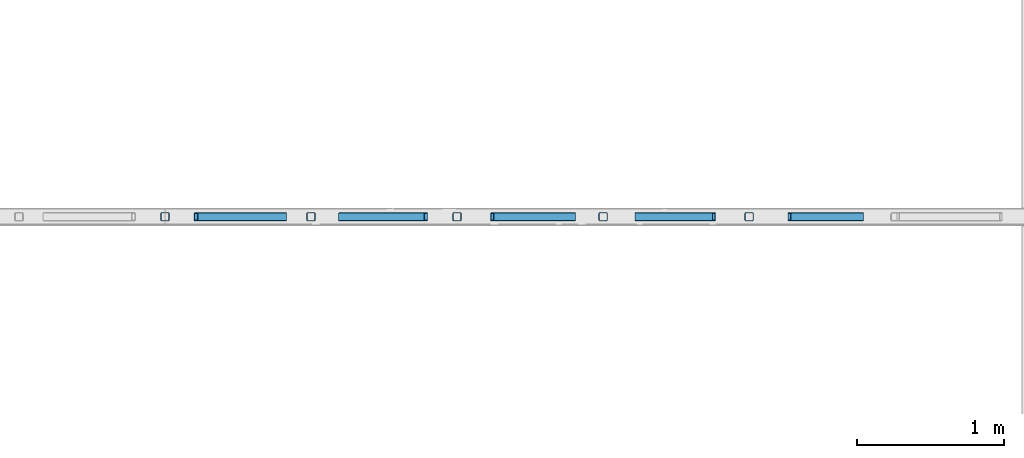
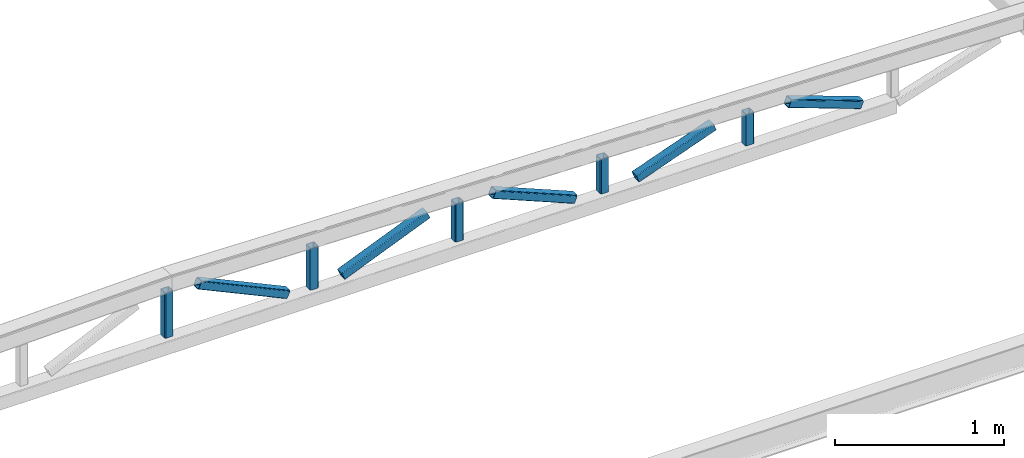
# One storey, part 4 of 10: 10 members, 1 element without a shape of its own.
"""IFC2X3 building model written with IfcOpenShell, lengths in millimetres."""

import ifcopenshell
import ifcopenshell.guid

model = None  # the IFC model being written
_history = None  # IfcOwnerHistory: only IFC2X3 demands one
_inside = {}  # id of a spatial element -> (the spatial element, [elements in it])
_under = {}  # id of a project, library or spatial element -> (it, [spatial elements below it])
_declared = {}  # id of a project -> (the project, [libraries it declares])
_typed = {}  # id of a type object -> (the type object, [elements of that type])
_made_of = {}  # id of a material, layer set ... -> (it, [elements and type objects made of it])


def new_model(schema):
    """Start an empty IFC model of exactly this schema.

    Asked for "IFC4X3", IfcOpenShell would pick the latest addendum, in which some entities
    have other attributes; the version numbers below select the first issue.
    IFC2X3 requires an IfcOwnerHistory on every rooted entity: one is made here for all.
    """
    global model, _history
    if schema == "IFC4X3":
        model = ifcopenshell.file(schema_version=(4, 3, 0, 0))
    else:
        model = ifcopenshell.file(schema=schema)
    _inside.clear()
    _under.clear()
    _declared.clear()
    _typed.clear()
    _made_of.clear()
    _history = None
    if model.schema == "IFC2X3":
        org = make("IfcOrganization", Name="unknown")
        user = make(
            "IfcPersonAndOrganization",
            ThePerson=make("IfcPerson", FamilyName="unknown"),
            TheOrganization=org,
        )
        app = make(
            "IfcApplication",
            ApplicationDeveloper=org,
            Version="unknown",
            ApplicationFullName="unknown",
            ApplicationIdentifier="unknown",
        )
        _history = make(
            "IfcOwnerHistory",
            OwningUser=user,
            OwningApplication=app,
            ChangeAction="ADDED",
            CreationDate=0,
        )
    return model


def make(cls, **values):
    """One entity of the class cls with the attributes given. An attribute that is None is left unset."""
    return model.create_entity(
        cls, **{name: value for name, value in values.items() if value is not None}
    )


def entity(cls, *values):
    """Any entity or typed value of the class cls, its attributes in the order of the schema. None: left unset."""
    e = model.create_entity(cls)
    for i, value in enumerate(values):
        if value is not None:
            e[i] = value
    return e


def rooted(cls, **values):
    """An entity with a GlobalId (a new one), such as an element, a storey or a relation."""
    return make(cls, GlobalId=ifcopenshell.guid.new(), OwnerHistory=_history, **values)


def si_unit(unit_type, name, prefix=None):
    """IfcSIUnit, for example si_unit("LENGTHUNIT", "METRE", prefix="MILLI")."""
    return make("IfcSIUnit", UnitType=unit_type, Prefix=prefix, Name=name)


def converted_unit(unit_type, name, factor, base, dimensions=None, offset=None):
    """IfcConversionBasedUnit, such as the inch: factor (a typed value) times the base unit."""
    return make(
        "IfcConversionBasedUnit"
        if offset is None
        else "IfcConversionBasedUnitWithOffset",
        ConversionOffset=offset,
        Dimensions=None
        if dimensions is None
        else entity("IfcDimensionalExponents", *dimensions),
        UnitType=unit_type,
        Name=name,
        ConversionFactor=make(
            "IfcMeasureWithUnit", ValueComponent=factor, UnitComponent=base
        ),
    )


def derived_unit(unit_type, elements):
    """IfcDerivedUnit: a product of units, each with its exponent."""
    return make(
        "IfcDerivedUnit",
        Elements=[
            make("IfcDerivedUnitElement", Unit=unit, Exponent=power)
            for unit, power in elements
        ],
        UnitType=unit_type,
    )


def assignment(units):
    """IfcUnitAssignment: the units of a project."""
    return None if units is None else make("IfcUnitAssignment", Units=units)


def point(xyz):
    """IfcCartesianPoint."""
    return None if xyz is None else make("IfcCartesianPoint", Coordinates=xyz)


def direction(xyz):
    """IfcDirection."""
    return None if xyz is None else make("IfcDirection", DirectionRatios=xyz)


def frame(location, z_axis=None, x_axis=None):
    """IfcAxis2Placement3D, a coordinate frame: its origin and axes. An axis left out is left unset."""
    return make(
        "IfcAxis2Placement3D",
        Location=point(location),
        Axis=direction(z_axis),
        RefDirection=direction(x_axis),
    )


def frame_2d(location, x_axis=None):
    """IfcAxis2Placement2D, a coordinate frame in the plane: its origin and x axis."""
    return make(
        "IfcAxis2Placement2D", Location=point(location), RefDirection=direction(x_axis)
    )


def origin():
    """The frame at (0, 0, 0) with its axes left unset."""
    return frame((0.0, 0.0, 0.0))


def place(relative_to, where):
    """IfcLocalPlacement: puts the frame where relative to a parent placement (None: the world)."""
    return make(
        "IfcLocalPlacement", PlacementRelTo=relative_to, RelativePlacement=where
    )


def context(
    kind, dimensions, precision=None, world=None, true_north=None, identifier=None
):
    """IfcGeometricRepresentationContext, for example the 3D "Model" context."""
    return make(
        "IfcGeometricRepresentationContext",
        ContextIdentifier=identifier,
        ContextType=kind,
        CoordinateSpaceDimension=dimensions,
        Precision=precision,
        WorldCoordinateSystem=world,
        TrueNorth=true_north,
    )


def subcontext(parent, identifier, kind, view, scale=None):
    """IfcGeometricRepresentationSubContext, for example "Body" below "Model"."""
    return make(
        "IfcGeometricRepresentationSubContext",
        ContextIdentifier=identifier,
        ContextType=kind,
        ParentContext=parent,
        TargetScale=scale,
        TargetView=view,
    )


def project(units=None, contexts=None):
    """IfcProject with its units and contexts."""
    return rooted(
        "IfcProject",
        Name="project",
        RepresentationContexts=contexts,
        UnitsInContext=assignment(units),
    )


def spatial(cls, under=None, at=None, **own):
    """A site, building, storey or space (cls), placed at a placement, below another one or the project."""
    s = rooted(cls, ObjectPlacement=at, **own)
    if under is not None:
        _under.setdefault(under.id(), (under, []))[1].append(s)
    return s


def polyline(points):
    """IfcPolyline through the points."""
    return make("IfcPolyline", Points=[point(p) for p in points])


def circle_curve(where, radius):
    """IfcCircle in the frame where."""
    return make("IfcCircle", Position=where, Radius=radius)


def parameter(value):
    """IfcParameterValue: where a trimmed curve begins or ends, as a parameter of its basis curve."""
    return model.create_entity("IfcParameterValue", value)


def trimmed(basis, trim1, trim2, sense, master):
    """IfcTrimmedCurve: the piece of a basis curve between two trims."""
    return make(
        "IfcTrimmedCurve",
        BasisCurve=basis,
        Trim1=trim1,
        Trim2=trim2,
        SenseAgreement=sense,
        MasterRepresentation=master,
    )


def segment(curve, same_sense, transition):
    """IfcCompositeCurveSegment."""
    return make(
        "IfcCompositeCurveSegment",
        Transition=transition,
        SameSense=same_sense,
        ParentCurve=curve,
    )


def composite_curve(segments, self_intersect=None):
    """IfcCompositeCurve: segments joined end to end."""
    return make("IfcCompositeCurve", Segments=segments, SelfIntersect=self_intersect)


def outline(outer, holes=None, kind="AREA"):
    """IfcArbitraryClosedProfileDef: a profile drawn as a closed curve; with holes, ...WithVoids."""
    if holes is None:
        return make("IfcArbitraryClosedProfileDef", ProfileType=kind, OuterCurve=outer)
    return make(
        "IfcArbitraryProfileDefWithVoids",
        ProfileType=kind,
        OuterCurve=outer,
        InnerCurves=holes,
    )


def extrude(swept, where, along, depth):
    """IfcExtrudedAreaSolid: the profile swept, set in the frame where, extruded along a direction by depth."""
    return make(
        "IfcExtrudedAreaSolid",
        SweptArea=swept,
        Position=where,
        ExtrudedDirection=direction(along),
        Depth=depth,
    )


def shape(context_of_items, identifier, shape_type, items):
    """IfcShapeRepresentation: the items that make up one representation, for example the "Body"."""
    return make(
        "IfcShapeRepresentation",
        ContextOfItems=context_of_items,
        RepresentationIdentifier=identifier,
        RepresentationType=shape_type,
        Items=items,
    )


def source(mapping_origin, context_of_items, identifier, shape_type, items):
    """IfcRepresentationMap: a shape defined once, which mapped items show again and again."""
    return make(
        "IfcRepresentationMap",
        MappingOrigin=mapping_origin,
        MappedRepresentation=shape(context_of_items, identifier, shape_type, items),
    )


def transform(
    local_origin,
    x_axis=None,
    y_axis=None,
    z_axis=None,
    scale=None,
    scale2=None,
    scale3=None,
    uniform=True,
):
    """IfcCartesianTransformationOperator3D, or its non-uniform kind. x_axis, y_axis, z_axis: its Axis1, 2, 3."""
    if uniform:
        return make(
            "IfcCartesianTransformationOperator3D",
            Axis1=direction(x_axis),
            Axis2=direction(y_axis),
            LocalOrigin=point(local_origin),
            Scale=scale,
            Axis3=direction(z_axis),
        )
    return make(
        "IfcCartesianTransformationOperator3DnonUniform",
        Axis1=direction(x_axis),
        Axis2=direction(y_axis),
        LocalOrigin=point(local_origin),
        Scale=scale,
        Axis3=direction(z_axis),
        Scale2=scale2,
        Scale3=scale3,
    )


def mapped(mapping_source, mapping_target):
    """IfcMappedItem: shows the shape of a source again, moved by a transform."""
    return make(
        "IfcMappedItem", MappingSource=mapping_source, MappingTarget=mapping_target
    )


def made_of(thing, what):
    """Note that an element or type object is made of a material, layer set ...; save() writes the relation."""
    if what is not None:
        _made_of.setdefault(what.id(), (what, []))[1].append(thing)
    return thing


def type_object(cls, material=None, **own):
    """A type object (cls), such as IfcWallType, which elements share."""
    return made_of(rooted(cls, **own), material)


def type_shapes(of_type, sources):
    """Give a type object the sources (RepresentationMaps) that its elements show as mapped items."""
    of_type.RepresentationMaps = sources


def element(
    cls,
    number,
    at=None,
    inside=None,
    cuts=None,
    type_object=None,
    material=None,
    context=None,
    identifier="Body",
    shape_type=None,
    held_by="IfcProductDefinitionShape",
    body=None,
    shapes=None,
    **own,
):
    """One element of the class cls, such as IfcWall. Its Tag is "e" and its number.

    at: its placement. inside: the storey or other place that contains it. cuts: it is an
    opening in that element (IfcRelVoidsElement). A single representation is given by context,
    identifier, shape_type and body (its items); several are given by shapes. held_by: the class
    of the entity that holds the representations. save() writes the other relations.
    """
    e = rooted(cls, Tag="e%d" % number, ObjectPlacement=at, **own)
    if body is not None:
        shapes = [shape(context, identifier, shape_type, body)]
    if shapes is not None:
        e.Representation = make(held_by, Representations=shapes)
    if inside is not None:
        _inside.setdefault(inside.id(), (inside, []))[1].append(e)
    if cuts is not None:
        rooted(
            "IfcRelVoidsElement", RelatingBuildingElement=cuts, RelatedOpeningElement=e
        )
    if type_object is not None:
        _typed.setdefault(type_object.id(), (type_object, []))[1].append(e)
    return made_of(e, material)


def aggregate(whole, parts):
    """IfcRelAggregates: a whole, such as a stair, and the parts it consists of."""
    return rooted("IfcRelAggregates", RelatingObject=whole, RelatedObjects=parts)


def save(model, path):
    """Write the relations noted so far, then the file.

    IfcRelAggregates (storeys below a building ...), IfcRelContainedInSpatialStructure (elements
    in a storey), IfcRelDefinesByType, IfcRelAssociatesMaterial and IfcRelDeclares: one each for
    every whole, place, type object, material and project.
    """
    for whole, parts in _under.values():
        aggregate(whole, parts)
    for where, things in _inside.values():
        rooted(
            "IfcRelContainedInSpatialStructure",
            RelatedElements=things,
            RelatingStructure=where,
        )
    for kind, things in _typed.values():
        rooted("IfcRelDefinesByType", RelatedObjects=things, RelatingType=kind)
    for what, things in _made_of.values():
        rooted("IfcRelAssociatesMaterial", RelatedObjects=things, RelatingMaterial=what)
    for by, libraries in _declared.values():
        rooted("IfcRelDeclares", RelatingContext=by, RelatedDefinitions=libraries)
    model.write(path)


model = new_model("IFC2X3")

# Units and contexts
model_context = context("Model", 3, precision=0.01, world=origin(), true_north=direction((6.12303176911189e-17, 1.0)))
body_context = subcontext(model_context, "Body", "Model", "MODEL_VIEW")
ifc_project = project(units=[si_unit("LENGTHUNIT", "METRE", prefix="MILLI"), si_unit("AREAUNIT", "SQUARE_METRE"), si_unit("VOLUMEUNIT", "CUBIC_METRE"), converted_unit("PLANEANGLEUNIT", "DEGREE", entity("IfcRatioMeasure", 0.0174532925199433), si_unit("PLANEANGLEUNIT", "RADIAN"), dimensions=[0, 0, 0, 0, 0, 0, 0]), si_unit("MASSUNIT", "GRAM", prefix="KILO"), derived_unit("MASSDENSITYUNIT", [(si_unit("MASSUNIT", "GRAM", prefix="KILO"), 1), (si_unit("LENGTHUNIT", "METRE"), -3)]), si_unit("TIMEUNIT", "SECOND"), si_unit("FREQUENCYUNIT", "HERTZ"), si_unit("THERMODYNAMICTEMPERATUREUNIT", "DEGREE_CELSIUS"), derived_unit("THERMALTRANSMITTANCEUNIT", [(si_unit("MASSUNIT", "GRAM", prefix="KILO"), 1), (si_unit("THERMODYNAMICTEMPERATUREUNIT", "KELVIN"), -1), (si_unit("TIMEUNIT", "SECOND"), -3)]), derived_unit("VOLUMETRICFLOWRATEUNIT", [(si_unit("LENGTHUNIT", "METRE"), 3), (si_unit("TIMEUNIT", "SECOND"), -1)]), si_unit("ELECTRICCURRENTUNIT", "AMPERE"), si_unit("ELECTRICVOLTAGEUNIT", "VOLT"), si_unit("POWERUNIT", "WATT"), si_unit("FORCEUNIT", "NEWTON", prefix="KILO"), si_unit("ILLUMINANCEUNIT", "LUX"), si_unit("LUMINOUSFLUXUNIT", "LUMEN"), si_unit("LUMINOUSINTENSITYUNIT", "CANDELA"), derived_unit("USERDEFINED", [(si_unit("MASSUNIT", "GRAM", prefix="KILO"), -1), (si_unit("LENGTHUNIT", "METRE"), -2), (si_unit("TIMEUNIT", "SECOND"), 3), (si_unit("LUMINOUSFLUXUNIT", "LUMEN"), 1)]), derived_unit("LINEARVELOCITYUNIT", [(si_unit("LENGTHUNIT", "METRE"), 1), (si_unit("TIMEUNIT", "SECOND"), -1)]), si_unit("PRESSUREUNIT", "PASCAL"), derived_unit("USERDEFINED", [(si_unit("LENGTHUNIT", "METRE"), -2), (si_unit("MASSUNIT", "GRAM", prefix="KILO"), 1), (si_unit("TIMEUNIT", "SECOND"), -2)])], contexts=[model_context])

# Site, building, storey
site_placement = place(None, frame((0.0, 0.0, 101000.0)))
site = spatial("IfcSite", under=ifc_project, at=site_placement, Name="Default", CompositionType="ELEMENT")
building_placement = place(site_placement, origin())
building = spatial("IfcBuilding", under=site, at=building_placement, CompositionType="ELEMENT")
storey_placement = place(building_placement, frame((0.0, 0.0, 6025.0)))
storey = spatial("IfcBuildingStorey", under=building, at=storey_placement, Name="03", CompositionType="ELEMENT", Elevation=6024.9999999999)

# Assembly, members
assembly_placement = place(storey_placement, origin())
assembly = element("IfcElementAssembly", 1, at=assembly_placement, inside=storey, Name="Gitterdrager:Standard", ObjectType="Gitterdrager:Standard", AssemblyPlace="NOTDEFINED", PredefinedType="TRUSS")
member_type_1 = type_object("IfcMemberType", Name="60x60x5", PredefinedType="BRACE")
shared_shape_1 = source(origin(), body_context, "Body", "SweptSolid", [
    extrude(outline(composite_curve([segment(trimmed(circle_curve(frame_2d((-20.0, -20.0), x_axis=(1.0, 0.0)), 10.0), [parameter(180.0)], [parameter(270.0)], True, "PARAMETER"), True, "CONTINUOUS"), segment(polyline([(-20.0, -30.0), (20.0, -30.0)]), True, "CONTINUOUS"), segment(trimmed(circle_curve(frame_2d((20.0, -20.0), x_axis=(1.0, 0.0)), 10.0), [parameter(270.0)], [parameter(5.08888749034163e-14)], True, "PARAMETER"), True, "CONTINUOUS"), segment(polyline([(30.0, -20.0), (30.0, 20.0)]), True, "CONTINUOUS"), segment(trimmed(circle_curve(frame_2d((20.0, 20.0), x_axis=(1.0, 0.0)), 10.0), [parameter(360.0)], [parameter(89.9999999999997)], True, "PARAMETER"), True, "CONTINUOUS"), segment(polyline([(20.0, 30.0), (-20.0, 30.0)]), True, "CONTINUOUS"), segment(trimmed(circle_curve(frame_2d((-20.0, 20.0), x_axis=(1.0, 0.0)), 10.0), [parameter(90.0000000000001)], [parameter(180.0)], True, "PARAMETER"), True, "CONTINUOUS"), segment(polyline([(-30.0, 20.0), (-30.0, -20.0)]), True, "CONTINUOUS")], self_intersect=False), holes=[composite_curve([segment(polyline([(20.0, -25.0), (-20.0, -25.0)]), True, "CONTINUOUS"), segment(trimmed(circle_curve(frame_2d((-20.0, -20.0), x_axis=(1.0, 0.0)), 5.0), [parameter(180.0)], [parameter(270.0)], True, "PARAMETER"), False, "CONTINUOUS"), segment(polyline([(-25.0, -20.0), (-25.0, 20.0)]), True, "CONTINUOUS"), segment(trimmed(circle_curve(frame_2d((-20.0, 20.0), x_axis=(1.0, 0.0)), 5.0), [parameter(90.0000000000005)], [parameter(180.0)], True, "PARAMETER"), False, "CONTINUOUS"), segment(polyline([(-20.0, 25.0), (20.0, 25.0)]), True, "CONTINUOUS"), segment(trimmed(circle_curve(frame_2d((20.0, 20.0), x_axis=(1.0, 0.0)), 5.0), [parameter(0.0)], [parameter(90.0000000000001)], True, "PARAMETER"), False, "CONTINUOUS"), segment(polyline([(25.0, 20.0), (25.0, -20.0)]), True, "CONTINUOUS"), segment(trimmed(circle_curve(frame_2d((20.0, -20.0), x_axis=(1.0, 0.0)), 5.0), [parameter(270.0)], [parameter(4.57999874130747e-13)], True, "PARAMETER"), False, "CONTINUOUS")], self_intersect=False)]), frame((-168.190907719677, 0.0, 0.0), z_axis=(1.0, 0.0, 0.0), x_axis=(0.0, -1.0, 0.0)), (0.0, 0.0, 1.0), 324.846388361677),
])
type_shapes(member_type_1, [shared_shape_1])
member_1_placement = place(assembly_placement, frame((17226.2644969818, 26417.9507529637, -110.132847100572), z_axis=(1.0, 0.0, 0.0), x_axis=(0.0, 0.0, 1.0)))
member_1 = element("IfcMember", 2, at=member_1_placement, type_object=member_type_1, Name="Bjelke HUP:60x60x5", ObjectType="60x60x5", context=body_context, shape_type="MappedRepresentation", body=[
    mapped(shared_shape_1, transform((0.0, 0.0, 0.0), scale=1.0)),
])
member_type_2 = type_object("IfcMemberType", Name="60x60x5", PredefinedType="BRACE")
shared_shape_2 = source(origin(), body_context, "Body", "SweptSolid", [
    extrude(outline(composite_curve([segment(trimmed(circle_curve(frame_2d((-20.0, -20.0), x_axis=(1.0, 0.0)), 10.0), [parameter(180.0)], [parameter(270.0)], True, "PARAMETER"), True, "CONTINUOUS"), segment(polyline([(-20.0, -30.0), (20.0, -30.0)]), True, "CONTINUOUS"), segment(trimmed(circle_curve(frame_2d((20.0, -20.0), x_axis=(1.0, 0.0)), 10.0), [parameter(270.0)], [parameter(5.08888749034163e-14)], True, "PARAMETER"), True, "CONTINUOUS"), segment(polyline([(30.0, -20.0), (30.0, 20.0)]), True, "CONTINUOUS"), segment(trimmed(circle_curve(frame_2d((20.0, 20.0), x_axis=(1.0, 0.0)), 10.0), [parameter(360.0)], [parameter(89.9999999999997)], True, "PARAMETER"), True, "CONTINUOUS"), segment(polyline([(20.0, 30.0), (-20.0, 30.0)]), True, "CONTINUOUS"), segment(trimmed(circle_curve(frame_2d((-20.0, 20.0), x_axis=(1.0, 0.0)), 10.0), [parameter(90.0000000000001)], [parameter(180.0)], True, "PARAMETER"), True, "CONTINUOUS"), segment(polyline([(-30.0, 20.0), (-30.0, -20.0)]), True, "CONTINUOUS")], self_intersect=False), holes=[composite_curve([segment(polyline([(20.0, -25.0), (-20.0, -25.0)]), True, "CONTINUOUS"), segment(trimmed(circle_curve(frame_2d((-20.0, -20.0), x_axis=(1.0, 0.0)), 5.0), [parameter(180.0)], [parameter(270.0)], True, "PARAMETER"), False, "CONTINUOUS"), segment(polyline([(-25.0, -20.0), (-25.0, 20.0)]), True, "CONTINUOUS"), segment(trimmed(circle_curve(frame_2d((-20.0, 20.0), x_axis=(1.0, 0.0)), 5.0), [parameter(90.0000000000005)], [parameter(180.0)], True, "PARAMETER"), False, "CONTINUOUS"), segment(polyline([(-20.0, 25.0), (20.0, 25.0)]), True, "CONTINUOUS"), segment(trimmed(circle_curve(frame_2d((20.0, 20.0), x_axis=(1.0, 0.0)), 5.0), [parameter(0.0)], [parameter(90.0000000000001)], True, "PARAMETER"), False, "CONTINUOUS"), segment(polyline([(25.0, 20.0), (25.0, -20.0)]), True, "CONTINUOUS"), segment(trimmed(circle_curve(frame_2d((20.0, -20.0), x_axis=(1.0, 0.0)), 5.0), [parameter(270.0)], [parameter(4.57999874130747e-13)], True, "PARAMETER"), False, "CONTINUOUS")], self_intersect=False)]), frame((-155.792423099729, 0.0, 0.0), z_axis=(1.0, 0.0, 0.0), x_axis=(0.0, -1.0, 0.0)), (0.0, 0.0, 1.0), 300.049419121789),
])
type_shapes(member_type_2, [shared_shape_2])
member_2_placement = place(assembly_placement, frame((18219.5978303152, 26417.9507529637, -122.531331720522), z_axis=(1.0, 0.0, 0.0), x_axis=(0.0, 0.0, 1.0)))
member_2 = element("IfcMember", 3, at=member_2_placement, type_object=member_type_2, Name="Bjelke HUP:60x60x5", ObjectType="60x60x5", context=body_context, shape_type="MappedRepresentation", body=[
    mapped(shared_shape_2, transform((0.0, 0.0, 0.0), scale=1.0)),
])
member_type_3 = type_object("IfcMemberType", Name="60x60x5", PredefinedType="BRACE")
shared_shape_3 = source(origin(), body_context, "Body", "SweptSolid", [
    extrude(outline(composite_curve([segment(trimmed(circle_curve(frame_2d((-20.0, -20.0), x_axis=(1.0, 0.0)), 10.0), [parameter(180.0)], [parameter(270.0)], True, "PARAMETER"), True, "CONTINUOUS"), segment(polyline([(-20.0, -30.0), (20.0, -30.0)]), True, "CONTINUOUS"), segment(trimmed(circle_curve(frame_2d((20.0, -20.0), x_axis=(1.0, 0.0)), 10.0), [parameter(270.0)], [parameter(5.08888749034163e-14)], True, "PARAMETER"), True, "CONTINUOUS"), segment(polyline([(30.0, -20.0), (30.0, 20.0)]), True, "CONTINUOUS"), segment(trimmed(circle_curve(frame_2d((20.0, 20.0), x_axis=(1.0, 0.0)), 10.0), [parameter(360.0)], [parameter(89.9999999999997)], True, "PARAMETER"), True, "CONTINUOUS"), segment(polyline([(20.0, 30.0), (-20.0, 30.0)]), True, "CONTINUOUS"), segment(trimmed(circle_curve(frame_2d((-20.0, 20.0), x_axis=(1.0, 0.0)), 10.0), [parameter(90.0000000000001)], [parameter(180.0)], True, "PARAMETER"), True, "CONTINUOUS"), segment(polyline([(-30.0, 20.0), (-30.0, -20.0)]), True, "CONTINUOUS")], self_intersect=False), holes=[composite_curve([segment(polyline([(20.0, -25.0), (-20.0, -25.0)]), True, "CONTINUOUS"), segment(trimmed(circle_curve(frame_2d((-20.0, -20.0), x_axis=(1.0, 0.0)), 5.0), [parameter(180.0)], [parameter(270.0)], True, "PARAMETER"), False, "CONTINUOUS"), segment(polyline([(-25.0, -20.0), (-25.0, 20.0)]), True, "CONTINUOUS"), segment(trimmed(circle_curve(frame_2d((-20.0, 20.0), x_axis=(1.0, 0.0)), 5.0), [parameter(90.0000000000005)], [parameter(180.0)], True, "PARAMETER"), False, "CONTINUOUS"), segment(polyline([(-20.0, 25.0), (20.0, 25.0)]), True, "CONTINUOUS"), segment(trimmed(circle_curve(frame_2d((20.0, 20.0), x_axis=(1.0, 0.0)), 5.0), [parameter(0.0)], [parameter(90.0000000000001)], True, "PARAMETER"), False, "CONTINUOUS"), segment(polyline([(25.0, 20.0), (25.0, -20.0)]), True, "CONTINUOUS"), segment(trimmed(circle_curve(frame_2d((20.0, -20.0), x_axis=(1.0, 0.0)), 5.0), [parameter(270.0)], [parameter(4.57999874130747e-13)], True, "PARAMETER"), False, "CONTINUOUS")], self_intersect=False)]), frame((-130.995453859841, 0.0, 0.0), z_axis=(1.0, 0.0, 0.0), x_axis=(0.0, -1.0, 0.0)), (0.0, 0.0, 1.0), 250.455480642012),
])
type_shapes(member_type_3, [shared_shape_3])
member_3_placement = place(assembly_placement, frame((20206.2644969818, 26417.9507529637, -147.328300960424), z_axis=(1.0, 0.0, 0.0), x_axis=(0.0, 0.0, 1.0)))
member_3 = element("IfcMember", 4, at=member_3_placement, type_object=member_type_3, Name="Bjelke HUP:60x60x5", ObjectType="60x60x5", context=body_context, shape_type="MappedRepresentation", body=[
    mapped(shared_shape_3, transform((0.0, 0.0, 0.0), scale=1.0)),
])
member_type_4 = type_object("IfcMemberType", Name="60x60x5", PredefinedType="BRACE")
shared_shape_4 = source(origin(), body_context, "Body", "SweptSolid", [
    extrude(outline(composite_curve([segment(trimmed(circle_curve(frame_2d((-20.0, -20.0), x_axis=(1.0, 0.0)), 10.0), [parameter(180.0)], [parameter(270.0)], True, "PARAMETER"), True, "CONTINUOUS"), segment(polyline([(-20.0, -30.0), (20.0, -30.0)]), True, "CONTINUOUS"), segment(trimmed(circle_curve(frame_2d((20.0, -20.0), x_axis=(1.0, 0.0)), 10.0), [parameter(270.0)], [parameter(5.08888749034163e-14)], True, "PARAMETER"), True, "CONTINUOUS"), segment(polyline([(30.0, -20.0), (30.0, 20.0)]), True, "CONTINUOUS"), segment(trimmed(circle_curve(frame_2d((20.0, 20.0), x_axis=(1.0, 0.0)), 10.0), [parameter(360.0)], [parameter(89.9999999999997)], True, "PARAMETER"), True, "CONTINUOUS"), segment(polyline([(20.0, 30.0), (-20.0, 30.0)]), True, "CONTINUOUS"), segment(trimmed(circle_curve(frame_2d((-20.0, 20.0), x_axis=(1.0, 0.0)), 10.0), [parameter(90.0000000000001)], [parameter(180.0)], True, "PARAMETER"), True, "CONTINUOUS"), segment(polyline([(-30.0, 20.0), (-30.0, -20.0)]), True, "CONTINUOUS")], self_intersect=False), holes=[composite_curve([segment(polyline([(20.0, -25.0), (-20.0, -25.0)]), True, "CONTINUOUS"), segment(trimmed(circle_curve(frame_2d((-20.0, -20.0), x_axis=(1.0, 0.0)), 5.0), [parameter(180.0)], [parameter(270.0)], True, "PARAMETER"), False, "CONTINUOUS"), segment(polyline([(-25.0, -20.0), (-25.0, 20.0)]), True, "CONTINUOUS"), segment(trimmed(circle_curve(frame_2d((-20.0, 20.0), x_axis=(1.0, 0.0)), 5.0), [parameter(90.0000000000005)], [parameter(180.0)], True, "PARAMETER"), False, "CONTINUOUS"), segment(polyline([(-20.0, 25.0), (20.0, 25.0)]), True, "CONTINUOUS"), segment(trimmed(circle_curve(frame_2d((20.0, 20.0), x_axis=(1.0, 0.0)), 5.0), [parameter(0.0)], [parameter(90.0000000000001)], True, "PARAMETER"), False, "CONTINUOUS"), segment(polyline([(25.0, 20.0), (25.0, -20.0)]), True, "CONTINUOUS"), segment(trimmed(circle_curve(frame_2d((20.0, -20.0), x_axis=(1.0, 0.0)), 5.0), [parameter(270.0)], [parameter(4.57999874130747e-13)], True, "PARAMETER"), False, "CONTINUOUS")], self_intersect=False)]), frame((-118.596969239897, 0.0, 0.0), z_axis=(1.0, 0.0, 0.0), x_axis=(0.0, -1.0, 0.0)), (0.0, 0.0, 1.0), 225.658511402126),
])
type_shapes(member_type_4, [shared_shape_4])
member_4_placement = place(assembly_placement, frame((21199.5978303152, 26417.9507529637, -159.726785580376), z_axis=(1.0, 0.0, 0.0), x_axis=(0.0, 0.0, 1.0)))
member_4 = element("IfcMember", 5, at=member_4_placement, type_object=member_type_4, Name="Bjelke HUP:60x60x5", ObjectType="60x60x5", context=body_context, shape_type="MappedRepresentation", body=[
    mapped(shared_shape_4, transform((0.0, 0.0, 0.0), scale=1.0)),
])
member_type_5 = type_object("IfcMemberType", Name="60x60x5", PredefinedType="BRACE")
shared_shape_5 = source(origin(), body_context, "Body", "SweptSolid", [
    extrude(outline(composite_curve([segment(trimmed(circle_curve(frame_2d((-20.0, -20.0), x_axis=(1.0, 0.0)), 10.0), [parameter(180.0)], [parameter(270.0)], True, "PARAMETER"), True, "CONTINUOUS"), segment(polyline([(-20.0, -30.0), (20.0, -30.0)]), True, "CONTINUOUS"), segment(trimmed(circle_curve(frame_2d((20.0, -20.0), x_axis=(1.0, 0.0)), 10.0), [parameter(270.0)], [parameter(5.08888749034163e-14)], True, "PARAMETER"), True, "CONTINUOUS"), segment(polyline([(30.0, -20.0), (30.0, 20.0)]), True, "CONTINUOUS"), segment(trimmed(circle_curve(frame_2d((20.0, 20.0), x_axis=(1.0, 0.0)), 10.0), [parameter(360.0)], [parameter(89.9999999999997)], True, "PARAMETER"), True, "CONTINUOUS"), segment(polyline([(20.0, 30.0), (-20.0, 30.0)]), True, "CONTINUOUS"), segment(trimmed(circle_curve(frame_2d((-20.0, 20.0), x_axis=(1.0, 0.0)), 10.0), [parameter(90.0000000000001)], [parameter(180.0)], True, "PARAMETER"), True, "CONTINUOUS"), segment(polyline([(-30.0, 20.0), (-30.0, -20.0)]), True, "CONTINUOUS")], self_intersect=False), holes=[composite_curve([segment(polyline([(20.0, -25.0), (-20.0, -25.0)]), True, "CONTINUOUS"), segment(trimmed(circle_curve(frame_2d((-20.0, -20.0), x_axis=(1.0, 0.0)), 5.0), [parameter(180.0)], [parameter(270.0)], True, "PARAMETER"), False, "CONTINUOUS"), segment(polyline([(-25.0, -20.0), (-25.0, 20.0)]), True, "CONTINUOUS"), segment(trimmed(circle_curve(frame_2d((-20.0, 20.0), x_axis=(1.0, 0.0)), 5.0), [parameter(90.0000000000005)], [parameter(180.0)], True, "PARAMETER"), False, "CONTINUOUS"), segment(polyline([(-20.0, 25.0), (20.0, 25.0)]), True, "CONTINUOUS"), segment(trimmed(circle_curve(frame_2d((20.0, 20.0), x_axis=(1.0, 0.0)), 5.0), [parameter(0.0)], [parameter(90.0000000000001)], True, "PARAMETER"), False, "CONTINUOUS"), segment(polyline([(25.0, 20.0), (25.0, -20.0)]), True, "CONTINUOUS"), segment(trimmed(circle_curve(frame_2d((20.0, -20.0), x_axis=(1.0, 0.0)), 5.0), [parameter(270.0)], [parameter(4.57999874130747e-13)], True, "PARAMETER"), False, "CONTINUOUS")], self_intersect=False)]), frame((-143.393938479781, 0.0, 0.0), z_axis=(1.0, 0.0, 0.0), x_axis=(0.0, -1.0, 0.0)), (0.0, 0.0, 1.0), 275.252449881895),
])
type_shapes(member_type_5, [shared_shape_5])
member_5_placement = place(assembly_placement, frame((19212.9311636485, 26417.9507529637, -134.929816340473), z_axis=(1.0, 0.0, 0.0), x_axis=(0.0, 0.0, 1.0)))
member_5 = element("IfcMember", 6, at=member_5_placement, type_object=member_type_5, Name="Bjelke HUP:60x60x5", ObjectType="60x60x5", context=body_context, shape_type="MappedRepresentation", body=[
    mapped(shared_shape_5, transform((0.0, 0.0, 0.0), scale=1.0)),
])
member_type_6 = type_object("IfcMemberType", Name="60x60x5", PredefinedType="BRACE")
shared_shape_6 = source(origin(), body_context, "Body", "SweptSolid", [
    extrude(outline(composite_curve([segment(trimmed(circle_curve(frame_2d((-20.0, -20.0), x_axis=(1.0, 0.0)), 10.0), [parameter(180.0)], [parameter(270.0)], True, "PARAMETER"), True, "CONTINUOUS"), segment(polyline([(-20.0, -30.0), (20.0, -30.0)]), True, "CONTINUOUS"), segment(trimmed(circle_curve(frame_2d((20.0, -20.0), x_axis=(1.0, 0.0)), 10.0), [parameter(270.0)], [parameter(5.08888749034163e-14)], True, "PARAMETER"), True, "CONTINUOUS"), segment(polyline([(30.0, -20.0), (30.0, 20.0)]), True, "CONTINUOUS"), segment(trimmed(circle_curve(frame_2d((20.0, 20.0), x_axis=(1.0, 0.0)), 10.0), [parameter(360.0)], [parameter(89.9999999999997)], True, "PARAMETER"), True, "CONTINUOUS"), segment(polyline([(20.0, 30.0), (-20.0, 30.0)]), True, "CONTINUOUS"), segment(trimmed(circle_curve(frame_2d((-20.0, 20.0), x_axis=(1.0, 0.0)), 10.0), [parameter(90.0000000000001)], [parameter(180.0)], True, "PARAMETER"), True, "CONTINUOUS"), segment(polyline([(-30.0, 20.0), (-30.0, -20.0)]), True, "CONTINUOUS")], self_intersect=False), holes=[composite_curve([segment(polyline([(20.0, -25.0), (-20.0, -25.0)]), True, "CONTINUOUS"), segment(trimmed(circle_curve(frame_2d((-20.0, -20.0), x_axis=(1.0, 0.0)), 5.0), [parameter(180.0)], [parameter(270.0)], True, "PARAMETER"), False, "CONTINUOUS"), segment(polyline([(-25.0, -20.0), (-25.0, 20.0)]), True, "CONTINUOUS"), segment(trimmed(circle_curve(frame_2d((-20.0, 20.0), x_axis=(1.0, 0.0)), 5.0), [parameter(90.0000000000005)], [parameter(180.0)], True, "PARAMETER"), False, "CONTINUOUS"), segment(polyline([(-20.0, 25.0), (20.0, 25.0)]), True, "CONTINUOUS"), segment(trimmed(circle_curve(frame_2d((20.0, 20.0), x_axis=(1.0, 0.0)), 5.0), [parameter(0.0)], [parameter(90.0000000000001)], True, "PARAMETER"), False, "CONTINUOUS"), segment(polyline([(25.0, 20.0), (25.0, -20.0)]), True, "CONTINUOUS"), segment(trimmed(circle_curve(frame_2d((20.0, -20.0), x_axis=(1.0, 0.0)), 5.0), [parameter(270.0)], [parameter(4.57999874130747e-13)], True, "PARAMETER"), False, "CONTINUOUS")], self_intersect=False)]), frame((-314.375226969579, 0.0, 0.0), z_axis=(1.0, 0.0, 0.0), x_axis=(0.0, -1.0, 0.0)), (0.0, 0.0, 1.0), 666.812434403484),
])
type_shapes(member_type_6, [shared_shape_6])
member_6_placement = place(assembly_placement, frame((17721.906344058, 26417.9507529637, -110.158430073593), z_axis=(-0.420802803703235, 0.0, -0.907152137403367), x_axis=(0.907152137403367, 0.0, -0.420802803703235)))
member_6 = element("IfcMember", 7, at=member_6_placement, type_object=member_type_6, Name="Bjelke HUP:60x60x5", ObjectType="60x60x5", context=body_context, shape_type="MappedRepresentation", body=[
    mapped(shared_shape_6, transform((0.0, 0.0, 0.0), scale=1.0)),
])
member_type_7 = type_object("IfcMemberType", Name="60x60x5", PredefinedType="BRACE")
shared_shape_7 = source(origin(), body_context, "Body", "SweptSolid", [
    extrude(outline(composite_curve([segment(trimmed(circle_curve(frame_2d((-20.0, -20.0), x_axis=(1.0, 0.0)), 10.0), [parameter(180.0)], [parameter(270.0)], True, "PARAMETER"), True, "CONTINUOUS"), segment(polyline([(-20.0, -30.0), (20.0, -30.0)]), True, "CONTINUOUS"), segment(trimmed(circle_curve(frame_2d((20.0, -20.0), x_axis=(1.0, 0.0)), 10.0), [parameter(270.0)], [parameter(5.08888749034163e-14)], True, "PARAMETER"), True, "CONTINUOUS"), segment(polyline([(30.0, -20.0), (30.0, 20.0)]), True, "CONTINUOUS"), segment(trimmed(circle_curve(frame_2d((20.0, 20.0), x_axis=(1.0, 0.0)), 10.0), [parameter(360.0)], [parameter(89.9999999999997)], True, "PARAMETER"), True, "CONTINUOUS"), segment(polyline([(20.0, 30.0), (-20.0, 30.0)]), True, "CONTINUOUS"), segment(trimmed(circle_curve(frame_2d((-20.0, 20.0), x_axis=(1.0, 0.0)), 10.0), [parameter(90.0000000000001)], [parameter(180.0)], True, "PARAMETER"), True, "CONTINUOUS"), segment(polyline([(-30.0, 20.0), (-30.0, -20.0)]), True, "CONTINUOUS")], self_intersect=False), holes=[composite_curve([segment(polyline([(20.0, -25.0), (-20.0, -25.0)]), True, "CONTINUOUS"), segment(trimmed(circle_curve(frame_2d((-20.0, -20.0), x_axis=(1.0, 0.0)), 5.0), [parameter(180.0)], [parameter(270.0)], True, "PARAMETER"), False, "CONTINUOUS"), segment(polyline([(-25.0, -20.0), (-25.0, 20.0)]), True, "CONTINUOUS"), segment(trimmed(circle_curve(frame_2d((-20.0, 20.0), x_axis=(1.0, 0.0)), 5.0), [parameter(90.0000000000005)], [parameter(180.0)], True, "PARAMETER"), False, "CONTINUOUS"), segment(polyline([(-20.0, 25.0), (20.0, 25.0)]), True, "CONTINUOUS"), segment(trimmed(circle_curve(frame_2d((20.0, 20.0), x_axis=(1.0, 0.0)), 5.0), [parameter(0.0)], [parameter(90.0000000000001)], True, "PARAMETER"), False, "CONTINUOUS"), segment(polyline([(25.0, 20.0), (25.0, -20.0)]), True, "CONTINUOUS"), segment(trimmed(circle_curve(frame_2d((20.0, -20.0), x_axis=(1.0, 0.0)), 5.0), [parameter(270.0)], [parameter(4.57999874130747e-13)], True, "PARAMETER"), False, "CONTINUOUS")], self_intersect=False)]), frame((-322.274622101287, 0.0, 0.0), z_axis=(1.0, 0.0, 0.0), x_axis=(0.0, -1.0, 0.0)), (0.0, 0.0, 1.0), 630.214484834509),
])
type_shapes(member_type_7, [shared_shape_7])
member_7_placement = place(assembly_placement, frame((18716.2644969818, 26417.9507529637, -134.929816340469), z_axis=(0.383267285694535, 0.0, -0.923637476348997), x_axis=(0.923637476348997, 0.0, 0.383267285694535)))
member_7 = element("IfcMember", 8, at=member_7_placement, type_object=member_type_7, Name="Bjelke HUP:60x60x5", ObjectType="60x60x5", context=body_context, shape_type="MappedRepresentation", body=[
    mapped(shared_shape_7, transform((0.0, 0.0, 0.0), scale=1.0)),
])
member_type_8 = type_object("IfcMemberType", Name="60x60x5", PredefinedType="BRACE")
shared_shape_8 = source(origin(), body_context, "Body", "SweptSolid", [
    extrude(outline(composite_curve([segment(trimmed(circle_curve(frame_2d((-20.0, -20.0), x_axis=(1.0, 0.0)), 10.0), [parameter(180.0)], [parameter(270.0)], True, "PARAMETER"), True, "CONTINUOUS"), segment(polyline([(-20.0, -30.0), (20.0, -30.0)]), True, "CONTINUOUS"), segment(trimmed(circle_curve(frame_2d((20.0, -20.0), x_axis=(1.0, 0.0)), 10.0), [parameter(270.0)], [parameter(5.08888749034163e-14)], True, "PARAMETER"), True, "CONTINUOUS"), segment(polyline([(30.0, -20.0), (30.0, 20.0)]), True, "CONTINUOUS"), segment(trimmed(circle_curve(frame_2d((20.0, 20.0), x_axis=(1.0, 0.0)), 10.0), [parameter(360.0)], [parameter(89.9999999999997)], True, "PARAMETER"), True, "CONTINUOUS"), segment(polyline([(20.0, 30.0), (-20.0, 30.0)]), True, "CONTINUOUS"), segment(trimmed(circle_curve(frame_2d((-20.0, 20.0), x_axis=(1.0, 0.0)), 10.0), [parameter(90.0000000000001)], [parameter(180.0)], True, "PARAMETER"), True, "CONTINUOUS"), segment(polyline([(-30.0, 20.0), (-30.0, -20.0)]), True, "CONTINUOUS")], self_intersect=False), holes=[composite_curve([segment(polyline([(20.0, -25.0), (-20.0, -25.0)]), True, "CONTINUOUS"), segment(trimmed(circle_curve(frame_2d((-20.0, -20.0), x_axis=(1.0, 0.0)), 5.0), [parameter(180.0)], [parameter(270.0)], True, "PARAMETER"), False, "CONTINUOUS"), segment(polyline([(-25.0, -20.0), (-25.0, 20.0)]), True, "CONTINUOUS"), segment(trimmed(circle_curve(frame_2d((-20.0, 20.0), x_axis=(1.0, 0.0)), 5.0), [parameter(90.0000000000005)], [parameter(180.0)], True, "PARAMETER"), False, "CONTINUOUS"), segment(polyline([(-20.0, 25.0), (20.0, 25.0)]), True, "CONTINUOUS"), segment(trimmed(circle_curve(frame_2d((20.0, 20.0), x_axis=(1.0, 0.0)), 5.0), [parameter(0.0)], [parameter(90.0000000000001)], True, "PARAMETER"), False, "CONTINUOUS"), segment(polyline([(25.0, 20.0), (25.0, -20.0)]), True, "CONTINUOUS"), segment(trimmed(circle_curve(frame_2d((20.0, -20.0), x_axis=(1.0, 0.0)), 5.0), [parameter(270.0)], [parameter(4.57999874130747e-13)], True, "PARAMETER"), False, "CONTINUOUS")], self_intersect=False)]), frame((-278.55434519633, 0.0, 0.0), z_axis=(1.0, 0.0, 0.0), x_axis=(0.0, -1.0, 0.0)), (0.0, 0.0, 1.0), 600.828967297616),
])
type_shapes(member_type_8, [shared_shape_8])
member_8_placement = place(assembly_placement, frame((19709.5978303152, 26417.9507529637, -134.929816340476), z_axis=(-0.383267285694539, 0.0, -0.923637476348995), x_axis=(0.923637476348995, 0.0, -0.383267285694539)))
member_8 = element("IfcMember", 9, at=member_8_placement, type_object=member_type_8, Name="Bjelke HUP:60x60x5", ObjectType="60x60x5", context=body_context, shape_type="MappedRepresentation", body=[
    mapped(shared_shape_8, transform((0.0, 0.0, 0.0), scale=1.0)),
])
member_type_9 = type_object("IfcMemberType", Name="60x60x5", PredefinedType="BRACE")
shared_shape_9 = source(origin(), body_context, "Body", "SweptSolid", [
    extrude(outline(composite_curve([segment(trimmed(circle_curve(frame_2d((-20.0, -20.0), x_axis=(1.0, 0.0)), 10.0), [parameter(180.0)], [parameter(270.0)], True, "PARAMETER"), True, "CONTINUOUS"), segment(polyline([(-20.0, -30.0), (20.0, -30.0)]), True, "CONTINUOUS"), segment(trimmed(circle_curve(frame_2d((20.0, -20.0), x_axis=(1.0, 0.0)), 10.0), [parameter(270.0)], [parameter(5.08888749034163e-14)], True, "PARAMETER"), True, "CONTINUOUS"), segment(polyline([(30.0, -20.0), (30.0, 20.0)]), True, "CONTINUOUS"), segment(trimmed(circle_curve(frame_2d((20.0, 20.0), x_axis=(1.0, 0.0)), 10.0), [parameter(360.0)], [parameter(89.9999999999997)], True, "PARAMETER"), True, "CONTINUOUS"), segment(polyline([(20.0, 30.0), (-20.0, 30.0)]), True, "CONTINUOUS"), segment(trimmed(circle_curve(frame_2d((-20.0, 20.0), x_axis=(1.0, 0.0)), 10.0), [parameter(90.0000000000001)], [parameter(180.0)], True, "PARAMETER"), True, "CONTINUOUS"), segment(polyline([(-30.0, 20.0), (-30.0, -20.0)]), True, "CONTINUOUS")], self_intersect=False), holes=[composite_curve([segment(polyline([(20.0, -25.0), (-20.0, -25.0)]), True, "CONTINUOUS"), segment(trimmed(circle_curve(frame_2d((-20.0, -20.0), x_axis=(1.0, 0.0)), 5.0), [parameter(180.0)], [parameter(270.0)], True, "PARAMETER"), False, "CONTINUOUS"), segment(polyline([(-25.0, -20.0), (-25.0, 20.0)]), True, "CONTINUOUS"), segment(trimmed(circle_curve(frame_2d((-20.0, 20.0), x_axis=(1.0, 0.0)), 5.0), [parameter(90.0000000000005)], [parameter(180.0)], True, "PARAMETER"), False, "CONTINUOUS"), segment(polyline([(-20.0, 25.0), (20.0, 25.0)]), True, "CONTINUOUS"), segment(trimmed(circle_curve(frame_2d((20.0, 20.0), x_axis=(1.0, 0.0)), 5.0), [parameter(0.0)], [parameter(90.0000000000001)], True, "PARAMETER"), False, "CONTINUOUS"), segment(polyline([(25.0, 20.0), (25.0, -20.0)]), True, "CONTINUOUS"), segment(trimmed(circle_curve(frame_2d((20.0, -20.0), x_axis=(1.0, 0.0)), 5.0), [parameter(270.0)], [parameter(4.57999874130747e-13)], True, "PARAMETER"), False, "CONTINUOUS")], self_intersect=False)]), frame((-288.019442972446, 0.0, 0.0), z_axis=(1.0, 0.0, 0.0), x_axis=(0.0, -1.0, 0.0)), (0.0, 0.0, 1.0), 561.890828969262),
])
type_shapes(member_type_9, [shared_shape_9])
member_9_placement = place(assembly_placement, frame((20702.9311636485, 26417.9507529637, -159.726785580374), z_axis=(0.342896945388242, 0.0, -0.939373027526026), x_axis=(0.939373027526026, 0.0, 0.342896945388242)))
member_9 = element("IfcMember", 10, at=member_9_placement, type_object=member_type_9, Name="Bjelke HUP:60x60x5", ObjectType="60x60x5", context=body_context, shape_type="MappedRepresentation", body=[
    mapped(shared_shape_9, transform((0.0, 0.0, 0.0), scale=1.0)),
])
member_type_10 = type_object("IfcMemberType", Name="60x60x5", PredefinedType="BRACE")
shared_shape_10 = source(origin(), body_context, "Body", "SweptSolid", [
    extrude(outline(composite_curve([segment(trimmed(circle_curve(frame_2d((-20.0, -20.0), x_axis=(1.0, 0.0)), 10.0), [parameter(180.0)], [parameter(270.0)], True, "PARAMETER"), True, "CONTINUOUS"), segment(polyline([(-20.0, -30.0), (20.0, -30.0)]), True, "CONTINUOUS"), segment(trimmed(circle_curve(frame_2d((20.0, -20.0), x_axis=(1.0, 0.0)), 10.0), [parameter(270.0)], [parameter(5.08888749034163e-14)], True, "PARAMETER"), True, "CONTINUOUS"), segment(polyline([(30.0, -20.0), (30.0, 20.0)]), True, "CONTINUOUS"), segment(trimmed(circle_curve(frame_2d((20.0, 20.0), x_axis=(1.0, 0.0)), 10.0), [parameter(360.0)], [parameter(89.9999999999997)], True, "PARAMETER"), True, "CONTINUOUS"), segment(polyline([(20.0, 30.0), (-20.0, 30.0)]), True, "CONTINUOUS"), segment(trimmed(circle_curve(frame_2d((-20.0, 20.0), x_axis=(1.0, 0.0)), 10.0), [parameter(90.0000000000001)], [parameter(180.0)], True, "PARAMETER"), True, "CONTINUOUS"), segment(polyline([(-30.0, 20.0), (-30.0, -20.0)]), True, "CONTINUOUS")], self_intersect=False), holes=[composite_curve([segment(polyline([(20.0, -25.0), (-20.0, -25.0)]), True, "CONTINUOUS"), segment(trimmed(circle_curve(frame_2d((-20.0, -20.0), x_axis=(1.0, 0.0)), 5.0), [parameter(180.0)], [parameter(270.0)], True, "PARAMETER"), False, "CONTINUOUS"), segment(polyline([(-25.0, -20.0), (-25.0, 20.0)]), True, "CONTINUOUS"), segment(trimmed(circle_curve(frame_2d((-20.0, 20.0), x_axis=(1.0, 0.0)), 5.0), [parameter(90.0000000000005)], [parameter(180.0)], True, "PARAMETER"), False, "CONTINUOUS"), segment(polyline([(-20.0, 25.0), (20.0, 25.0)]), True, "CONTINUOUS"), segment(trimmed(circle_curve(frame_2d((20.0, 20.0), x_axis=(1.0, 0.0)), 5.0), [parameter(0.0)], [parameter(90.0000000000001)], True, "PARAMETER"), False, "CONTINUOUS"), segment(polyline([(25.0, 20.0), (25.0, -20.0)]), True, "CONTINUOUS"), segment(trimmed(circle_curve(frame_2d((20.0, -20.0), x_axis=(1.0, 0.0)), 5.0), [parameter(270.0)], [parameter(4.57999874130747e-13)], True, "PARAMETER"), False, "CONTINUOUS")], self_intersect=False)]), frame((-236.712172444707, 0.0, 0.0), z_axis=(1.0, 0.0, 0.0), x_axis=(0.0, -1.0, 0.0)), (0.0, 0.0, 1.0), 524.731615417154),
])
type_shapes(member_type_10, [shared_shape_10])
member_10_placement = place(assembly_placement, frame((21696.2644969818, 26417.9507529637, -159.726785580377), z_axis=(-0.342896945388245, 0.0, -0.939373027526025), x_axis=(0.939373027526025, 0.0, -0.342896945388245)))
member_10 = element("IfcMember", 11, at=member_10_placement, type_object=member_type_10, Name="Bjelke HUP:60x60x5", ObjectType="60x60x5", context=body_context, shape_type="MappedRepresentation", body=[
    mapped(shared_shape_10, transform((0.0, 0.0, 0.0), scale=1.0)),
])
aggregate(assembly, [member_1, member_2, member_5, member_3, member_4, member_6, member_7, member_8, member_9, member_10])

save(model, "model.ifc")
